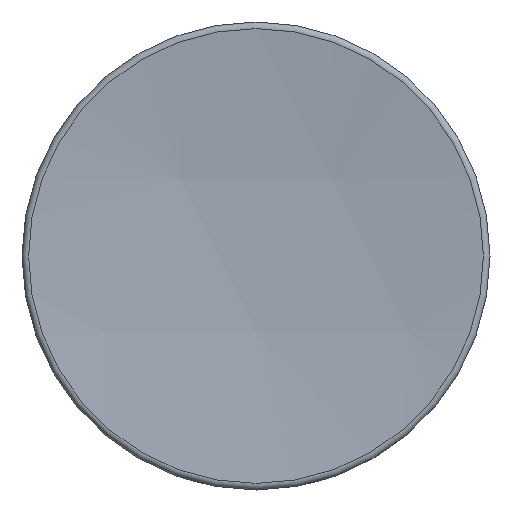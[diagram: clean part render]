
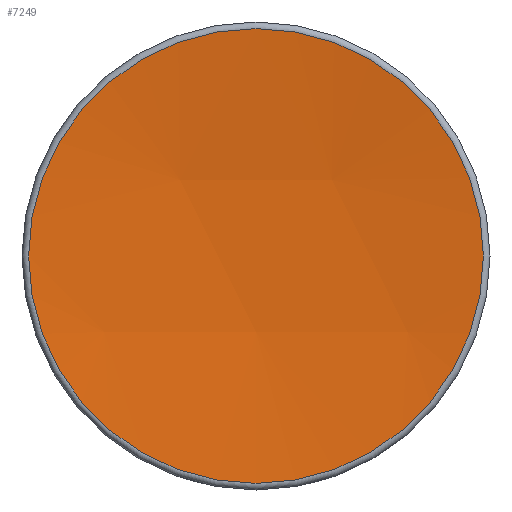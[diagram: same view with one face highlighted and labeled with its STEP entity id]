
A CAD part, front view. The second image highlights one B-rep face of the part: STEP entity #7249.
In plain terms, the highlighted spherical face has radius 600 mm.
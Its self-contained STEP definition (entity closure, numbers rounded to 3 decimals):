
#21=SPHERICAL_SURFACE('',#8218,600.);
#947=CIRCLE('',#8215,77.741);
#948=CIRCLE('',#8216,77.741);
#1479=FACE_OUTER_BOUND('',#1988,.T.);
#1988=EDGE_LOOP('',(#6300,#6301));
#3280=VERTEX_POINT('',#15329);
#3281=VERTEX_POINT('',#15330);
#4287=EDGE_CURVE('',#3280,#3281,#947,.T.);
#4288=EDGE_CURVE('',#3281,#3280,#948,.T.);
#6300=ORIENTED_EDGE('',*,*,#4287,.T.);
#6301=ORIENTED_EDGE('',*,*,#4288,.T.);
#7249=ADVANCED_FACE('',(#1479),#21,.F.);
#8215=AXIS2_PLACEMENT_3D('',#15331,#10348,#10349);
#8216=AXIS2_PLACEMENT_3D('',#15332,#10350,#10351);
#8218=AXIS2_PLACEMENT_3D('',#15334,#10354,#10355);
#10348=DIRECTION('center_axis',(0.,-1.,0.));
#10349=DIRECTION('ref_axis',(-1.,0.,0.));
#10350=DIRECTION('center_axis',(0.,-1.,0.));
#10351=DIRECTION('ref_axis',(-1.,0.,0.));
#10354=DIRECTION('center_axis',(0.,0.,
1.));
#10355=DIRECTION('ref_axis',(-1.,0.,0.));
#15329=CARTESIAN_POINT('',(0.,-223.633,77.741));
#15330=CARTESIAN_POINT('',(0.,-223.633,-77.741));
#15331=CARTESIAN_POINT('Origin',(0.,-223.633,
0.));
#15332=CARTESIAN_POINT('Origin',(0.,-223.633,
0.));
#15334=CARTESIAN_POINT('Origin',(0.,-818.575,
0.));
